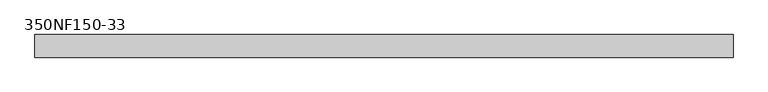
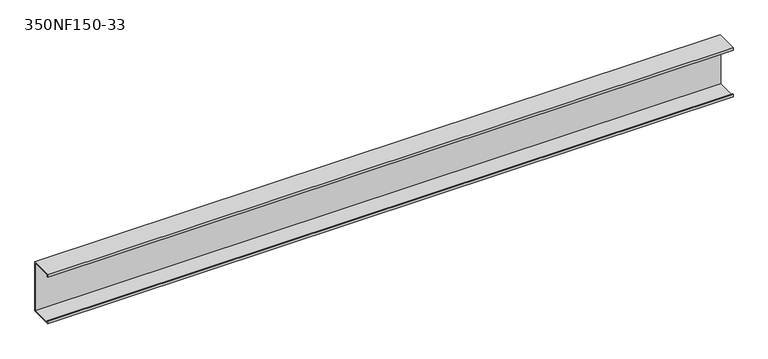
"""IFC4 building model written with IfcOpenShell, lengths in millimetres: beam geometry, BIMSF-SSMA-S : 350NF150-33."""

from ifc_helpers import new_model, si_unit, frame, origin, place, context, project, spatial, polyline, outline, extrude, source, transform, mapped, element, save


def beam_350nf150_33_bcca35cb(model_context):
    return source(origin(), model_context, "Body", "SweptSolid", [
        extrude(outline(polyline([(19.05, 44.45), (19.05, -44.45), (-19.05, -44.45), (-19.05, -39.6748), (-18.1676842, -39.6748), (-18.1676842, -43.5676842), (18.1676842, -43.5676842), (18.1676842, 43.5676842), (-18.1676842, 43.5676842), (-18.1676842, 39.6748), (-19.05, 39.6748), (-19.05, 44.45), (19.05, 44.45)])), frame((-587.5141632, 0.0, 0.0), z_axis=(1.0, 0.0, 0.0), x_axis=(0.0, 1.0, 0.0)), (0.0, 0.0, 1.0), 1175.0283263),
    ])


if __name__ == "__main__":
    model = new_model("IFC4")
    model_context = context("Model", 3, world=origin())
    ifc_project = project(units=[si_unit("LENGTHUNIT", "METRE", prefix="MILLI")], contexts=[model_context])
    site = spatial("IfcSite", under=ifc_project)
    building = spatial("IfcBuilding", under=site)
    placement = place(None, origin())
    beam_350nf150_33_shape = beam_350nf150_33_bcca35cb(model_context)
    element("IfcBeam", 1, ObjectType="BIMSF-SSMA-S : 350NF150-33", at=placement, inside=building, context=model_context, shape_type="MappedRepresentation", body=[
        mapped(beam_350nf150_33_shape, transform((0.0, 0.0, 0.0), x_axis=(1.0, 0.0, 0.0), y_axis=(0.0, 1.0, 0.0), z_axis=(0.0, 0.0, 1.0))),
    ])
    save(model, "model.ifc")
